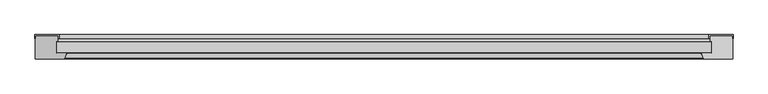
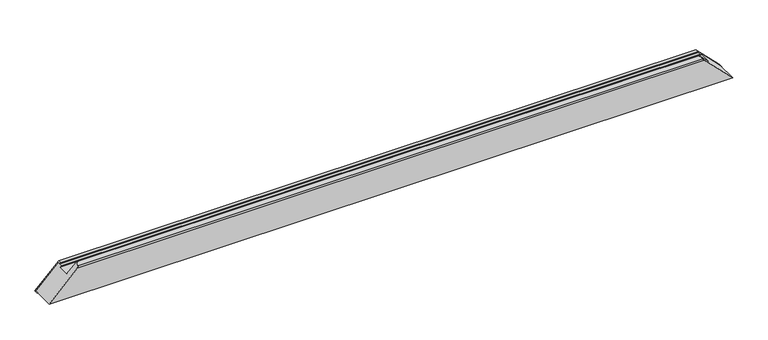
"""IFC4 building model written with IfcOpenShell, lengths in millimetres: proxy geometry, Weiku - Montante - Caixilho 02.2.01.005 : Weiku - Montante - Caixilho 02.2.01.005."""

from ifc_helpers import new_model, si_unit, frame, origin, place, context, project, spatial, ellipse_curve, faceted_brep, source, transform, mapped, element, save
from ifc_brep_helpers import plane_surface, cylinder_surface, advanced_brep


def generic_models_47fefca4(model_context):
    return source(origin(), model_context, "Body", "SolidModel", [
        faceted_brep([(-747.0, 43.5137905, 0.0), (-747.0, 50.0, 0.0), (-698.0, 50.0, 49.0), (-698.0, 43.5137905, 49.0), (-696.0, 43.5137905, 51.0), (-696.0, 52.0, 51.0), (-748.0, 52.0, -1.0), (-748.0, 43.5137905, -1.0), (747.0, 50.0, 0.0), (747.0, 43.5137905, 0.0), (748.0, 43.5137905, -1.0), (748.0, 52.0, -1.0), (696.0, 52.0, 51.0), (696.0, 43.5137905, 51.0), (698.0, 43.5137905, 49.0), (698.0, 50.0, 49.0)], [[[0, 1, 2, 3, 4, 5, 6, 7]], [[8, 9, 10, 11, 12, 13, 14, 15]], [[1, 0, 9, 8]], [[2, 1, 8, 15]], [[3, 2, 15, 14]], [[4, 3, 14, 13]], [[5, 4, 13, 12]], [[6, 5, 12, 11]], [[7, 6, 11, 10]], [[0, 7, 10, 9]]]),
        advanced_brep(
        [(-701.0, 12.5, 46.0), (-680.8909676, 12.5, 66.1090324), (680.8909676, 12.5, 66.1090324), (701.0, 12.5, 46.0), (-701.0, 37.8314286, 46.0), (701.0, 37.8314286, 46.0), (-698.0, 37.027581, 49.0), (698.0, 37.027581, 49.0), (-698.0, 50.0, 49.0), (698.0, 50.0, 49.0), (747.0, 50.0, 0.0), (-747.0, 50.0, 0.0), (747.0, 0.0, 0.0), (-747.0, 0.0, 0.0), (685.4997332, 0.0, 61.5002668), (-685.4997332, 0.0, 61.5002668), (-680.118227, 11.4929448, 66.881773), (-682.6019557, 2.2235429, 64.3980443), (682.6019557, 2.2235429, 64.3980443), (680.118227, 11.4929448, 66.881773)],
        [
            (0, 1),
            (1, 2),
            (2, 3),
            (3, 0),
            (4, 0),
            (3, 5),
            (5, 4),
            (6, 4),
            (5, 7),
            (7, 6),
            (8, 6),
            (7, 9),
            (9, 8),
            (10, 11),
            (11, 8),
            (9, 10),
            (10, 12),
            (12, 13),
            (13, 11),
            (12, 14),
            (14, 15),
            (15, 13),
            (16, 17),
            (17, 18),
            (18, 19),
            (19, 16),
            (15, 17, ellipse_curve(frame((-685.4997332, 3.0, 61.5002668), z_axis=(-0.7071067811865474, 0.0, 0.7071067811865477), x_axis=(-0.7071067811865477, 0.0, -0.7071067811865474)), 4.2426407, 3.0)),
            (16, 1, ellipse_curve(frame((-680.8909676, 11.7, 66.1090324), z_axis=(-0.7071067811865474, 0.0, 0.7071067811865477), x_axis=(-0.7071067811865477, 0.0, -0.7071067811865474)), 1.1313708, 0.8)),
            (2, 19, ellipse_curve(frame((680.8909676, 11.7, 66.1090324), z_axis=(0.7071067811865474, 0.0, 0.7071067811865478), x_axis=(-0.7071067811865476, 0.0, 0.7071067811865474)), 1.1313708, 0.8)),
            (18, 14, ellipse_curve(frame((685.4997332, 3.0, 61.5002668), z_axis=(0.7071067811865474, 0.0, 0.7071067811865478), x_axis=(-0.7071067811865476, 0.0, 0.7071067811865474)), 4.2426407, 3.0)),
        ],
        [
            plane_surface(frame((-747.0, 12.5, 66.1090324), z_axis=(0.0, 1.0, 0.0), x_axis=(1.0, 0.0, 0.0))),
            plane_surface(frame((-747.0, 12.5, 46.0), z_axis=(0.0, 0.0, 1.0), x_axis=(1.0, 0.0, 0.0))),
            plane_surface(frame((-747.0, 37.8314286, 46.0), z_axis=(0.0, -0.9659258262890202, -0.2588190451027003), x_axis=(1.0, 0.0, 0.0))),
            plane_surface(frame((-747.0, 37.027581, 49.0), z_axis=(0.0, 0.0, 1.0), x_axis=(1.0, 0.0, 0.0))),
            plane_surface(frame((-747.0, 50.0, 49.0), z_axis=(0.0, 1.0, 0.0), x_axis=(1.0, 0.0, 0.0))),
            plane_surface(frame((-747.0, 50.0, 0.0), z_axis=(0.0, 0.0, -1.0), x_axis=(1.0, 0.0, 0.0))),
            plane_surface(frame((-747.0, 0.0, 0.0), z_axis=(0.0, -1.0, 0.0), x_axis=(1.0, 0.0, 0.0))),
            plane_surface(frame((-747.0, 2.2235429, 64.3980443), z_axis=(0.0, -0.2588190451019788, 0.9659258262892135), x_axis=(1.0, 0.0, 0.0))),
            plane_surface(frame((-817.0, -15.0, -70.0), z_axis=(-0.7071067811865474, 0.0, 0.7071067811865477), x_axis=(0.0, 1.0, 0.0))),
            plane_surface(frame((677.0, -15.0, 70.0), z_axis=(0.7071067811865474, 0.0, 0.7071067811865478), x_axis=(0.0, 1.0, 0.0))),
            cylinder_surface(frame((-747.0, 11.7, 66.1090324), z_axis=(-1.0, 0.0, 0.0), x_axis=(0.0, 1.0, 0.0)), 0.8),
            cylinder_surface(frame((-747.0, 3.0, 61.5002668), z_axis=(-1.0, 0.0, 0.0), x_axis=(0.0, 1.0, 0.0)), 3.0),
        ],
        [
            (0, [[1, 2, 3, 4]]),
            (1, [[5, -4, 6, 7]]),
            (2, [[8, -7, 9, 10]]),
            (3, [[11, -10, 12, 13]]),
            (4, [[14, 15, -13, 16]]),
            (5, [[-14, 17, 18, 19]]),
            (6, [[-18, 20, 21, 22]]),
            (7, [[23, 24, 25, 26]]),
            (8, [[-1, -5, -8, -11, -15, -19, -22, 27, -23, 28]]),
            (9, [[-3, 29, -25, 30, -20, -17, -16, -12, -9, -6]]),
            (10, [[-28, -26, -29, -2]]),
            (11, [[-27, -21, -30, -24]]),
        ],
    ),
    ])


if __name__ == "__main__":
    model = new_model("IFC4")
    model_context = context("Model", 3, world=origin())
    ifc_project = project(units=[si_unit("LENGTHUNIT", "METRE", prefix="MILLI")], contexts=[model_context])
    site = spatial("IfcSite", under=ifc_project)
    building = spatial("IfcBuilding", under=site)
    placement = place(None, origin())
    generic_models_shape = generic_models_47fefca4(model_context)
    element("IfcBuildingElementProxy", 1, Name="Weiku - Montante - Caixilho 02.2.01.005 : Weiku - Montante - Caixilho 02.2.01.005", ObjectType="Weiku - Montante - Caixilho 02.2.01.005 : Weiku - Montante - Caixilho 02.2.01.005", at=placement, inside=building, context=model_context, shape_type="MappedRepresentation", body=[
        mapped(generic_models_shape, transform((0.0, 0.0, 0.0), x_axis=(1.0, 0.0, 0.0), y_axis=(0.0, 1.0, 0.0), z_axis=(0.0, 0.0, 1.0))),
    ])
    save(model, "model.ifc")
